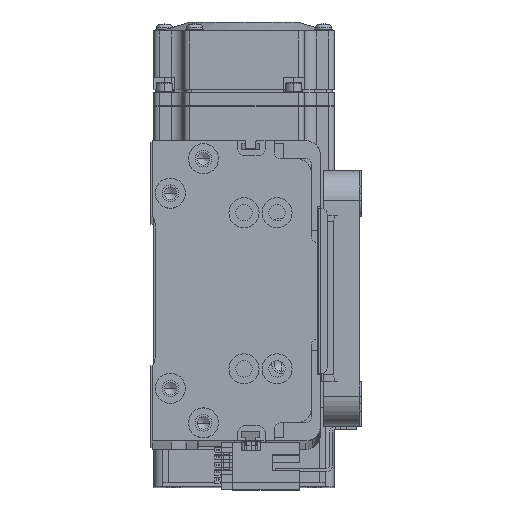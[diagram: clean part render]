
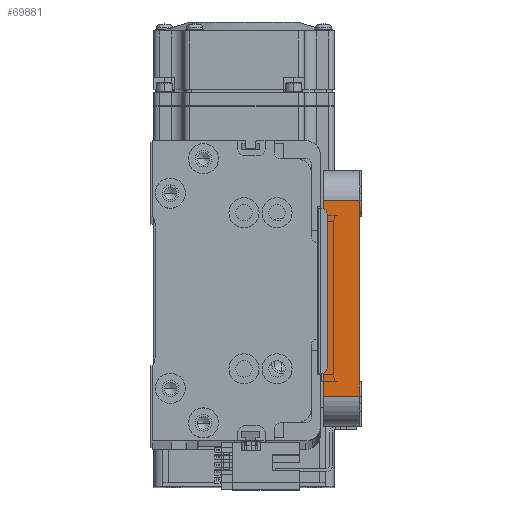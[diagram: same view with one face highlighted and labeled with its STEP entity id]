
A CAD part, top view. The second image highlights one B-rep face of the part: STEP entity #69881.
In plain terms, the highlighted planar face has unit normal (0, 0, 1) as drawn and (-1, 0, 0) by its records, which use the part's own axes.
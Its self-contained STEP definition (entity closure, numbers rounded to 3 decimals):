
#4072 = VECTOR ( 'NONE', #67952, 1000. ) ;
#5481 = CARTESIAN_POINT ( 'NONE',  ( -55., 32.5, 0. ) ) ;
#8862 = VERTEX_POINT ( 'NONE', #48895 ) ;
#10978 = VERTEX_POINT ( 'NONE', #68392 ) ;
#17636 = CARTESIAN_POINT ( 'NONE',  ( -55., -42.5, 12. ) ) ;
#19096 = VERTEX_POINT ( 'NONE', #44891 ) ;
#20346 = EDGE_CURVE ( 'NONE', #10978, #19096, #34716, .T. ) ;
#21678 = VERTEX_POINT ( 'NONE', #5481 ) ;
#21692 = EDGE_CURVE ( 'NONE', #21678, #10978, #70790, .T. ) ;
#28949 = DIRECTION ( 'NONE',  ( 0., -1., 0. ) ) ;
#30419 = ORIENTED_EDGE ( 'NONE', *, *, #35433, .F. ) ;
#33054 = ORIENTED_EDGE ( 'NONE', *, *, #74148, .T. ) ;
#34716 = LINE ( 'NONE', #62153, #4072 ) ;
#35433 = EDGE_CURVE ( 'NONE', #8862, #19096, #71149, .T. ) ;
#36996 = DIRECTION ( 'NONE',  ( 0., 0., -1. ) ) ;
#39111 = DIRECTION ( 'NONE',  ( 0., 0., -1. ) ) ;
#40131 = VECTOR ( 'NONE', #28949, 1000. ) ;
#40182 = VECTOR ( 'NONE', #36996, 1000. ) ;
#40508 = VECTOR ( 'NONE', #58018, 1000. ) ;
#43278 = AXIS2_PLACEMENT_3D ( 'NONE', #62088, #73640, #39111 ) ;
#44665 = FACE_OUTER_BOUND ( 'NONE', #68787, .T. ) ;
#44891 = CARTESIAN_POINT ( 'NONE',  ( -55., -32.5, 12. ) ) ;
#46932 = ORIENTED_EDGE ( 'NONE', *, *, #21692, .T. ) ;
#48593 = CARTESIAN_POINT ( 'NONE',  ( -55., 32.5, 12. ) ) ;
#48895 = CARTESIAN_POINT ( 'NONE',  ( -55., 32.5, 12. ) ) ;
#53160 = ORIENTED_EDGE ( 'NONE', *, *, #20346, .T. ) ;
#58018 = DIRECTION ( 'NONE',  ( 0., -1., 0. ) ) ;
#59132 = LINE ( 'NONE', #48593, #40182 ) ;
#62088 = CARTESIAN_POINT ( 'NONE',  ( -55., -42.5, 12. ) ) ;
#62153 = CARTESIAN_POINT ( 'NONE',  ( -55., -32.5, 12. ) ) ;
#67892 = PLANE ( 'NONE',  #43278 ) ;
#67952 = DIRECTION ( 'NONE',  ( 0., 0., 1. ) ) ;
#68392 = CARTESIAN_POINT ( 'NONE',  ( -55., -32.5, 0. ) ) ;
#68787 = EDGE_LOOP ( 'NONE', ( #46932, #53160, #30419, #33054 ) ) ;
#69881 = ADVANCED_FACE ( 'NONE', ( #44665 ), #67892, .F. ) ;
#70790 = LINE ( 'NONE', #74625, #40131 ) ;
#71149 = LINE ( 'NONE', #17636, #40508 ) ;
#73640 = DIRECTION ( 'NONE',  ( 1., 0., 0. ) ) ;
#74148 = EDGE_CURVE ( 'NONE', #8862, #21678, #59132, .T. ) ;
#74625 = CARTESIAN_POINT ( 'NONE',  ( -55., -42.5, 0. ) ) ;
